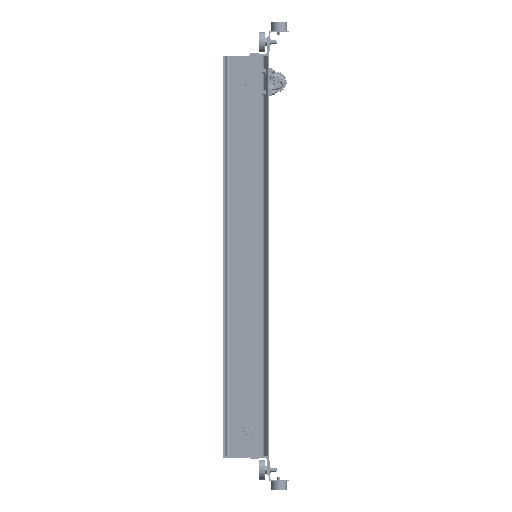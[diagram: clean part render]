
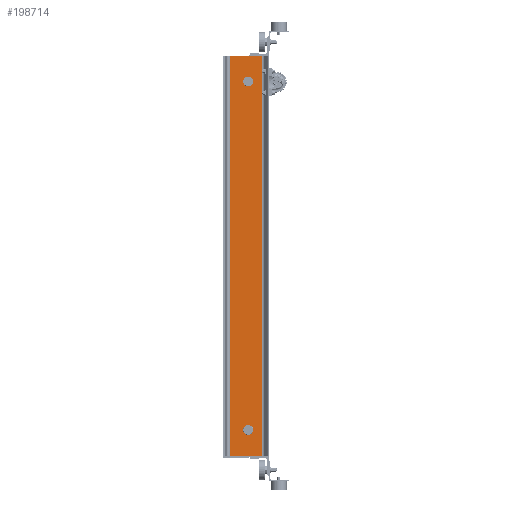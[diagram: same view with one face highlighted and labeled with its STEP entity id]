
A CAD part, left-side view. The second image highlights one B-rep face of the part: STEP entity #198714.
In plain terms, the highlighted planar face has unit normal (-1, 0, 0) as drawn and (1, 0, 0) by its records, which use the part's own axes.
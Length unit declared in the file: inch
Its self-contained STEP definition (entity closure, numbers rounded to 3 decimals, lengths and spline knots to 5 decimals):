
#363 = EDGE_CURVE ( 'NONE', #16007, #51064, #135099, .T. ) ;
#824 = ORIENTED_EDGE ( 'NONE', *, *, #194882, .F. ) ;
#7425 = DIRECTION ( 'NONE',  ( 0., 0., -1. ) ) ;
#8724 = AXIS2_PLACEMENT_3D ( 'NONE', #118706, #52797, #183453 ) ;
#14324 = CARTESIAN_POINT ( 'NONE',  ( 0.353, 1.14232, -35. ) ) ;
#14850 = DIRECTION ( 'NONE',  ( -1., 0., 0. ) ) ;
#16007 = VERTEX_POINT ( 'NONE', #115462 ) ;
#16132 = ORIENTED_EDGE ( 'NONE', *, *, #183780, .T. ) ;
#28910 = CARTESIAN_POINT ( 'NONE',  ( 0.353, 6.85768, -35. ) ) ;
#30107 = DIRECTION ( 'NONE',  ( 0., 1., 0. ) ) ;
#33002 = AXIS2_PLACEMENT_3D ( 'NONE', #125914, #63123, #95041 ) ;
#35479 = VECTOR ( 'NONE', #128804, 39.37008 ) ;
#37068 = DIRECTION ( 'NONE',  ( -1., 0., 0. ) ) ;
#38550 = EDGE_CURVE ( 'NONE', #205637, #205097, #61024, .T. ) ;
#39262 = CIRCLE ( 'NONE', #8724, 0.789 ) ;
#40389 = ORIENTED_EDGE ( 'NONE', *, *, #363, .T. ) ;
#41009 = EDGE_LOOP ( 'NONE', ( #16132, #92690 ) ) ;
#41930 = DIRECTION ( 'NONE',  ( 0., -1., 0. ) ) ;
#44035 = FACE_BOUND ( 'NONE', #202450, .T. ) ;
#45749 = CARTESIAN_POINT ( 'NONE',  ( 0.353, 6.85768, 35. ) ) ;
#46625 = CARTESIAN_POINT ( 'NONE',  ( 0.353, 1.14232, 35. ) ) ;
#46965 = LINE ( 'NONE', #28910, #35479 ) ;
#49489 = ORIENTED_EDGE ( 'NONE', *, *, #97111, .T. ) ;
#51064 = VERTEX_POINT ( 'NONE', #179843 ) ;
#52509 = VECTOR ( 'NONE', #81142, 39.37008 ) ;
#52725 = VERTEX_POINT ( 'NONE', #46625 ) ;
#52797 = DIRECTION ( 'NONE',  ( -1., 0., 0. ) ) ;
#55338 = LINE ( 'NONE', #56382, #92424 ) ;
#56382 = CARTESIAN_POINT ( 'NONE',  ( 0.353, 1.14232, 35. ) ) ;
#61024 = LINE ( 'NONE', #77996, #52509 ) ;
#63123 = DIRECTION ( 'NONE',  ( 1., 0., 0. ) ) ;
#63232 = VECTOR ( 'NONE', #41930, 39.37008 ) ;
#68115 = CARTESIAN_POINT ( 'NONE',  ( 0.353, 6.85768, 35. ) ) ;
#71042 = CARTESIAN_POINT ( 'NONE',  ( 0.353, 3.622, -30.6 ) ) ;
#76139 = ORIENTED_EDGE ( 'NONE', *, *, #38550, .F. ) ;
#77996 = CARTESIAN_POINT ( 'NONE',  ( 0.353, 6.85768, 35. ) ) ;
#81142 = DIRECTION ( 'NONE',  ( 0., 0., -1. ) ) ;
#92424 = VECTOR ( 'NONE', #7425, 39.37008 ) ;
#92690 = ORIENTED_EDGE ( 'NONE', *, *, #101394, .T. ) ;
#94679 = CARTESIAN_POINT ( 'NONE',  ( 0.353, 3.622, 29.711 ) ) ;
#95041 = DIRECTION ( 'NONE',  ( 0., 1., 0. ) ) ;
#97111 = EDGE_CURVE ( 'NONE', #52725, #159065, #55338, .T. ) ;
#101394 = EDGE_CURVE ( 'NONE', #132769, #197867, #39262, .T. ) ;
#106255 = ORIENTED_EDGE ( 'NONE', *, *, #116527, .T. ) ;
#110208 = CARTESIAN_POINT ( 'NONE',  ( 0.353, 6.85768, -35. ) ) ;
#114582 = AXIS2_PLACEMENT_3D ( 'NONE', #175679, #115095, #30107 ) ;
#115095 = DIRECTION ( 'NONE',  ( -1., 0., 0. ) ) ;
#115462 = CARTESIAN_POINT ( 'NONE',  ( 0.353, 3.622, -31.389 ) ) ;
#116527 = EDGE_CURVE ( 'NONE', #51064, #16007, #192883, .T. ) ;
#118706 = CARTESIAN_POINT ( 'NONE',  ( 0.353, 3.622, 30.5 ) ) ;
#119244 = EDGE_LOOP ( 'NONE', ( #824, #76139, #169612, #49489 ) ) ;
#123806 = FACE_BOUND ( 'NONE', #41009, .T. ) ;
#125914 = CARTESIAN_POINT ( 'NONE',  ( 0.353, 6.85768, 35. ) ) ;
#128804 = DIRECTION ( 'NONE',  ( 0., -1., 0. ) ) ;
#132769 = VERTEX_POINT ( 'NONE', #94679 ) ;
#135099 = CIRCLE ( 'NONE', #114582, 0.789 ) ;
#140799 = PLANE ( 'NONE',  #33002 ) ;
#156707 = FACE_OUTER_BOUND ( 'NONE', #119244, .T. ) ;
#159065 = VERTEX_POINT ( 'NONE', #14324 ) ;
#164297 = EDGE_CURVE ( 'NONE', #205637, #52725, #191298, .T. ) ;
#166717 = DIRECTION ( 'NONE',  ( 0., 1., 0. ) ) ;
#169612 = ORIENTED_EDGE ( 'NONE', *, *, #164297, .T. ) ;
#175679 = CARTESIAN_POINT ( 'NONE',  ( 0.353, 3.622, -30.6 ) ) ;
#179248 = AXIS2_PLACEMENT_3D ( 'NONE', #71042, #37068, #166717 ) ;
#179843 = CARTESIAN_POINT ( 'NONE',  ( 0.353, 3.622, -29.811 ) ) ;
#183453 = DIRECTION ( 'NONE',  ( 0., 1., 0. ) ) ;
#183780 = EDGE_CURVE ( 'NONE', #197867, #132769, #189310, .T. ) ;
#189310 = CIRCLE ( 'NONE', #196151, 0.789 ) ;
#191298 = LINE ( 'NONE', #45749, #63232 ) ;
#192334 = CARTESIAN_POINT ( 'NONE',  ( 0.353, 3.622, 30.5 ) ) ;
#192883 = CIRCLE ( 'NONE', #179248, 0.789 ) ;
#193372 = DIRECTION ( 'NONE',  ( 0., 1., 0. ) ) ;
#193745 = CARTESIAN_POINT ( 'NONE',  ( 0.353, 3.622, 31.289 ) ) ;
#194882 = EDGE_CURVE ( 'NONE', #205097, #159065, #46965, .T. ) ;
#196151 = AXIS2_PLACEMENT_3D ( 'NONE', #192334, #14850, #193372 ) ;
#197867 = VERTEX_POINT ( 'NONE', #193745 ) ;
#198714 = ADVANCED_FACE ( 'NONE', ( #123806, #156707, #44035 ), #140799, .T. ) ;
#202450 = EDGE_LOOP ( 'NONE', ( #106255, #40389 ) ) ;
#205097 = VERTEX_POINT ( 'NONE', #110208 ) ;
#205637 = VERTEX_POINT ( 'NONE', #68115 ) ;
